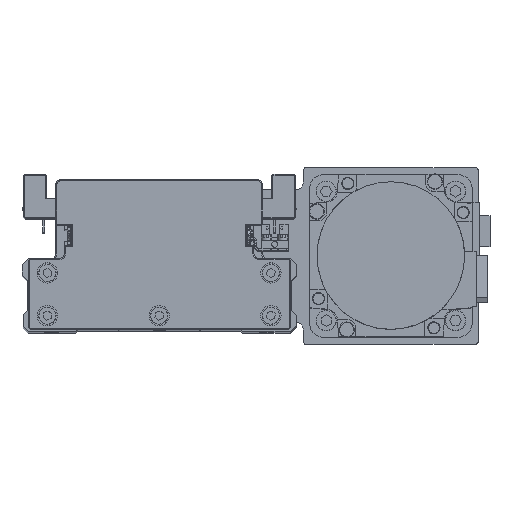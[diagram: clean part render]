
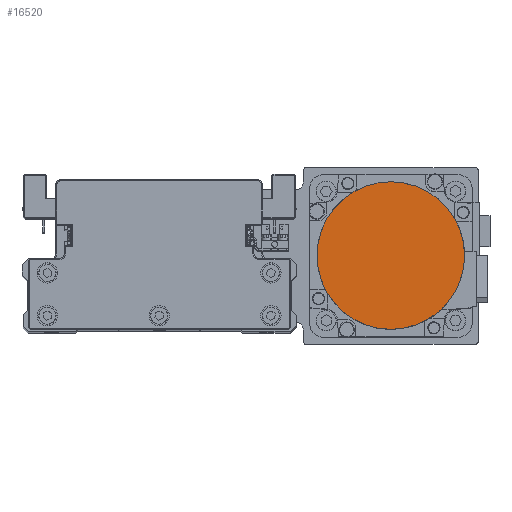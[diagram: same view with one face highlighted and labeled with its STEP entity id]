
A CAD part, top view. The second image highlights one B-rep face of the part: STEP entity #16520.
In plain terms, the highlighted planar face has unit normal (0, 0, 1) as drawn and (0, 0, -1) by its records, which use the part's own axes.
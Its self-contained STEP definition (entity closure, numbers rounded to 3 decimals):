
#387 = DIRECTION ( 'NONE',  ( 0., 0., 1. ) ) ;
#918 = CARTESIAN_POINT ( 'NONE',  ( 0., -36.3, -122.2 ) ) ;
#3032 = EDGE_CURVE ( 'NONE', #24463, #18244, #7970, .T. ) ;
#5580 = DIRECTION ( 'NONE',  ( 0., 1., 0. ) ) ;
#7970 = CIRCLE ( 'NONE', #30244, 36.3 ) ;
#8605 = DIRECTION ( 'NONE',  ( 0., 0., 1. ) ) ;
#11608 = FACE_OUTER_BOUND ( 'NONE', #33122, .T. ) ;
#12569 = DIRECTION ( 'NONE',  ( 0., -1., 0. ) ) ;
#14730 = AXIS2_PLACEMENT_3D ( 'NONE', #35891, #8605, #20764 ) ;
#14792 = CIRCLE ( 'NONE', #37035, 36.3 ) ;
#16520 = ADVANCED_FACE ( 'NONE', ( #11608 ), #23759, .F. ) ;
#18244 = VERTEX_POINT ( 'NONE', #918 ) ;
#20729 = CARTESIAN_POINT ( 'NONE',  ( 0., 0., -122.2 ) ) ;
#20764 = DIRECTION ( 'NONE',  ( 1., 0., 0. ) ) ;
#20805 = EDGE_CURVE ( 'NONE', #18244, #24463, #14792, .T. ) ;
#22650 = ORIENTED_EDGE ( 'NONE', *, *, #20805, .F. ) ;
#23759 = PLANE ( 'NONE',  #14730 ) ;
#24463 = VERTEX_POINT ( 'NONE', #28786 ) ;
#27691 = CARTESIAN_POINT ( 'NONE',  ( 0., 0., -122.2 ) ) ;
#28786 = CARTESIAN_POINT ( 'NONE',  ( 0., 36.3, -122.2 ) ) ;
#30244 = AXIS2_PLACEMENT_3D ( 'NONE', #20729, #32865, #5580 ) ;
#30954 = ORIENTED_EDGE ( 'NONE', *, *, #3032, .F. ) ;
#32865 = DIRECTION ( 'NONE',  ( 0., 0., 1. ) ) ;
#33122 = EDGE_LOOP ( 'NONE', ( #30954, #22650 ) ) ;
#35891 = CARTESIAN_POINT ( 'NONE',  ( 0., 0., -122.2 ) ) ;
#37035 = AXIS2_PLACEMENT_3D ( 'NONE', #27691, #387, #12569 ) ;
